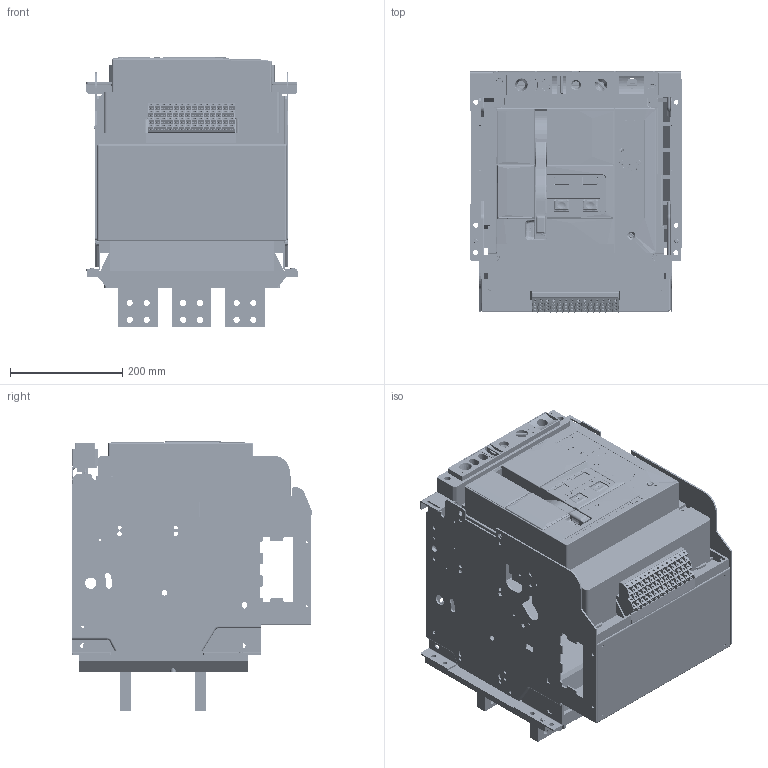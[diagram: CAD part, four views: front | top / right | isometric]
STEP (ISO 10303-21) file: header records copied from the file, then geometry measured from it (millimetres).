
FILE_DESCRIPTION((''),'2;1');
FILE_NAME('NA8-2500H-2500-3P-CT_ASM','2020-03-13T11:01:18',('lcc'),(''),'CREO PARAMETRIC BY PTC INC, 2018020','CREO PARAMETRIC BY PTC INC, 2018020','');
FILE_SCHEMA(('CONFIG_CONTROL_DESIGN','SHAPE_APPEARANCE_LAYERS_GROUPS'));
Products named in the file (33): 8050A0306129; 8ZTD_050_653; 8ZTD_050_654; 8ZTD_300_532; 8ZTD_300_531; 25-3P-DIBAN02; 8580A0412105; 8ZTD-060-206; 8ZTD-253-779; 8ZTD-253-780; 8ZTD-253-782; 8ZTD-227-004; 8ZTD-235-048; 8-040-432; 8-004-030; 8-320-094; 8-860-KZQ; 8ZTD-253-577; 8ZTD-321-090; 8ZTD-024-837; 8ZTD-557-514; 8ZTD-557-515; 8ZTD-557-516; 8ZTD-557-517; M3_GB6170; M3X8_GB818; 8ZTD-141-185; 8ZTD-141-184; 5ZTD-558-712_ASM; 8ZTD-860-699; 8ZTD-064-137; 5ZTD-558-695-2500_ASM; NA8-2500H-2500-3P-CT_ASM
Assembly tree (56 placements, depth 4):
  NA8-2500H-2500-3P-CT_ASM
    8050A0306129
    8ZTD_050_653
    8ZTD_050_654
    8ZTD_300_532
    8ZTD_300_531
    25-3P-DIBAN02
    8580A0412105  x6
    8ZTD-060-206
    8ZTD-253-779
    8ZTD-253-780
    8ZTD-253-782
    8ZTD-227-004
    8ZTD-235-048
    8-040-432
    8-004-030
    8-320-094
    8-860-KZQ
    8ZTD-253-577
    8ZTD-321-090
    5ZTD-558-695-2500_ASM
      5ZTD-558-712_ASM  x14
        8ZTD-024-837
        8ZTD-557-514
        8ZTD-557-515
        8ZTD-557-516
        8ZTD-557-517
        M3_GB6170
        M3X8_GB818
        8ZTD-141-185
        8ZTD-141-184
      8ZTD-860-699
      8ZTD-064-137
Bounding box: 375.5 x 428.53 x 479.68 mm (x, y, z)
Volume: 11478644.3 mm3; surface area: 3133820.3 mm2
Topology: 240 solids, 268 shells, 24001 faces, 64254 edges, 41880 vertices
Faces by surface type: plane 17308, cylinder 3885, cone 1023, bspline 947, torus 441, extrusion 248, sphere 148, revolution 1
Entity records: 315216 total; most frequent: CARTESIAN_POINT 73369, ORIENTED_EDGE 43245, DIRECTION 39524, EDGE_CURVE 21680, VECTOR 16253, LINE 16005, VERTEX_POINT 14246, PRESENTATION_STYLE_ASSIGNMENT 12393
